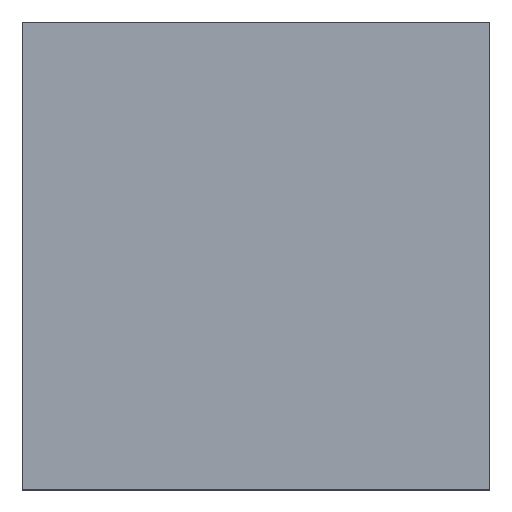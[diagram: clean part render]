
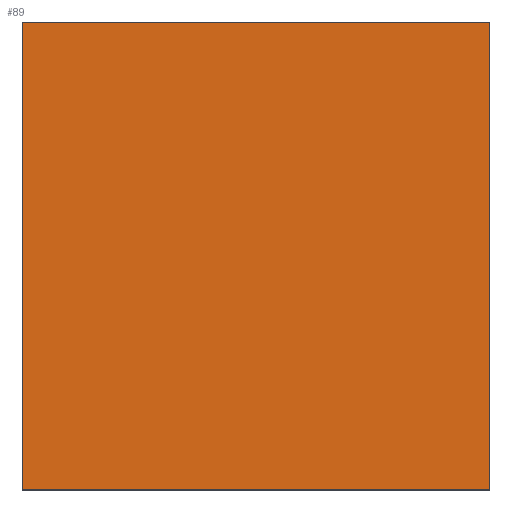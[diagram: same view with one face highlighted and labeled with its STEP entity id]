
A CAD part, top view. The second image highlights one B-rep face of the part: STEP entity #89.
In plain terms, the highlighted planar face has unit normal (0, 0, 1).
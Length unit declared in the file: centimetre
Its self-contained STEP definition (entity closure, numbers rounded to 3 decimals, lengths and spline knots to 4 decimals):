
#27 = EDGE_CURVE ( 'NONE', #161, #385, #174, .T. ) ;
#38 = ORIENTED_EDGE ( 'NONE', *, *, #458, .T. ) ;
#48 = VERTEX_POINT ( 'NONE', #291 ) ;
#51 = VECTOR ( 'NONE', #319, 100. ) ;
#88 = CARTESIAN_POINT ( 'NONE',  ( 0., 0., 1000. ) ) ;
#89 = ADVANCED_FACE ( 'NONE', ( #167 ), #391, .T. ) ;
#98 = EDGE_CURVE ( 'NONE', #200, #48, #206, .T. ) ;
#109 = AXIS2_PLACEMENT_3D ( 'NONE', #88, #275, #471 ) ;
#111 = CARTESIAN_POINT ( 'NONE',  ( 0., 0., 1000. ) ) ;
#138 = CARTESIAN_POINT ( 'NONE',  ( 0., 1000., 1000. ) ) ;
#140 = VECTOR ( 'NONE', #406, 100. ) ;
#157 = LINE ( 'NONE', #165, #51 ) ;
#159 = LINE ( 'NONE', #210, #380 ) ;
#161 = VERTEX_POINT ( 'NONE', #311 ) ;
#165 = CARTESIAN_POINT ( 'NONE',  ( 0., 1000., 1000. ) ) ;
#167 = FACE_OUTER_BOUND ( 'NONE', #260, .T. ) ;
#174 = LINE ( 'NONE', #138, #140 ) ;
#182 = EDGE_CURVE ( 'NONE', #385, #200, #159, .T. ) ;
#199 = DIRECTION ( 'NONE',  ( 0., 1., 0. ) ) ;
#200 = VERTEX_POINT ( 'NONE', #323 ) ;
#206 = LINE ( 'NONE', #473, #287 ) ;
#210 = CARTESIAN_POINT ( 'NONE',  ( 0., 0., 1000. ) ) ;
#260 = EDGE_LOOP ( 'NONE', ( #480, #325, #331, #38 ) ) ;
#275 = DIRECTION ( 'NONE',  ( 0., 0., 1. ) ) ;
#287 = VECTOR ( 'NONE', #199, 100. ) ;
#291 = CARTESIAN_POINT ( 'NONE',  ( 1000., 1000., 1000. ) ) ;
#311 = CARTESIAN_POINT ( 'NONE',  ( 0., 1000., 1000. ) ) ;
#319 = DIRECTION ( 'NONE',  ( -1., 0., 0. ) ) ;
#323 = CARTESIAN_POINT ( 'NONE',  ( 1000., 0., 1000. ) ) ;
#325 = ORIENTED_EDGE ( 'NONE', *, *, #182, .T. ) ;
#331 = ORIENTED_EDGE ( 'NONE', *, *, #98, .T. ) ;
#380 = VECTOR ( 'NONE', #478, 100. ) ;
#385 = VERTEX_POINT ( 'NONE', #111 ) ;
#391 = PLANE ( 'NONE',  #109 ) ;
#406 = DIRECTION ( 'NONE',  ( 0., -1., 0. ) ) ;
#458 = EDGE_CURVE ( 'NONE', #48, #161, #157, .T. ) ;
#471 = DIRECTION ( 'NONE',  ( 1., 0., 0. ) ) ;
#473 = CARTESIAN_POINT ( 'NONE',  ( 1000., 1000., 1000. ) ) ;
#478 = DIRECTION ( 'NONE',  ( 1., 0., 0. ) ) ;
#480 = ORIENTED_EDGE ( 'NONE', *, *, #27, .T. ) ;
